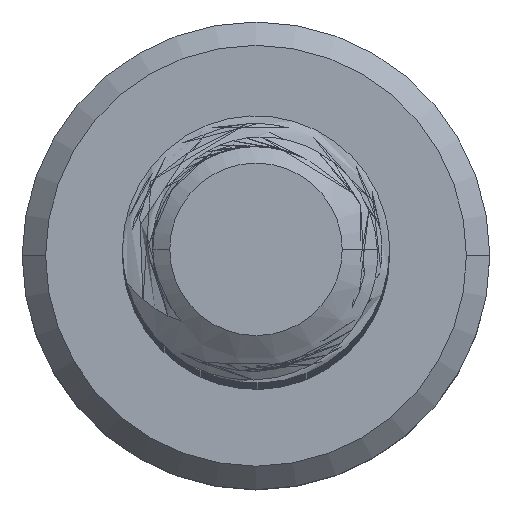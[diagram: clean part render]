
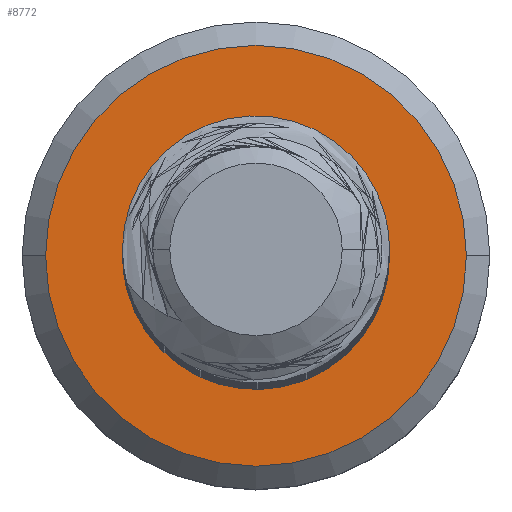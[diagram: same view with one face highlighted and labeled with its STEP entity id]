
A CAD part, top view. The second image highlights one B-rep face of the part: STEP entity #8772.
In plain terms, the highlighted planar face has unit normal (0, 0, 1).
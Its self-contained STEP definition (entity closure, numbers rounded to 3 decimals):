
#97 = CARTESIAN_POINT ( 'NONE',  ( 0., 0., -55. ) ) ;
#228 = CARTESIAN_POINT ( 'NONE',  ( -1.155, 1.168, -55. ) ) ;
#529 = ORIENTED_EDGE ( 'NONE', *, *, #13416, .T. ) ;
#675 = ORIENTED_EDGE ( 'NONE', *, *, #9850, .T. ) ;
#776 = VERTEX_POINT ( 'NONE', #4766 ) ;
#806 = ORIENTED_EDGE ( 'NONE', *, *, #13909, .F. ) ;
#826 = CARTESIAN_POINT ( 'NONE',  ( -1.023, -1.707, -55. ) ) ;
#1130 = CARTESIAN_POINT ( 'NONE',  ( 0.675, 1.39, -55. ) ) ;
#1628 = EDGE_CURVE ( 'NONE', #15917, #8693, #12382, .T. ) ;
#1728 = CARTESIAN_POINT ( 'NONE',  ( 0.675, -1.883, -55. ) ) ;
#2363 = CARTESIAN_POINT ( 'NONE',  ( -1.499, -1.199, -55. ) ) ;
#2501 = CIRCLE ( 'NONE', #16587, 3.15 ) ;
#2617 = AXIS2_PLACEMENT_3D ( 'NONE', #2716, #7029, #17628 ) ;
#2673 = CARTESIAN_POINT ( 'NONE',  ( 0.842, 1.334, -55. ) ) ;
#2716 = CARTESIAN_POINT ( 'NONE',  ( 0., 0., -55. ) ) ;
#2835 = CIRCLE ( 'NONE', #18331, 2. ) ;
#2963 = CARTESIAN_POINT ( 'NONE',  ( 1.634, -0.906, -55. ) ) ;
#3047 = CIRCLE ( 'NONE', #3868, 1.545 ) ;
#3275 = CARTESIAN_POINT ( 'NONE',  ( -1.803, -0.209, -55. ) ) ;
#3458 = CARTESIAN_POINT ( 'NONE',  ( 0., 0., -55. ) ) ;
#3634 = PLANE ( 'NONE',  #11048 ) ;
#3868 = AXIS2_PLACEMENT_3D ( 'NONE', #3458, #15627, #18057 ) ;
#4194 = CARTESIAN_POINT ( 'NONE',  ( -1.663, -0.892, -55. ) ) ;
#4766 = CARTESIAN_POINT ( 'NONE',  ( 0.675, -1.883, -55. ) ) ;
#4790 = CARTESIAN_POINT ( 'NONE',  ( 1.273, 1.037, -55. ) ) ;
#5090 = VERTEX_POINT ( 'NONE', #18135 ) ;
#5135 = FACE_OUTER_BOUND ( 'NONE', #15132, .T. ) ;
#5417 = CARTESIAN_POINT ( 'NONE',  ( 1.77, -0.402, -55. ) ) ;
#5736 = CARTESIAN_POINT ( 'NONE',  ( -1.286, 1.054, -55. ) ) ;
#5761 = FACE_BOUND ( 'NONE', #9760, .T. ) ;
#6015 = CIRCLE ( 'NONE', #2617, 3.15 ) ;
#6077 = DIRECTION ( 'NONE',  ( -1., 0., 0. ) ) ;
#6701 = CARTESIAN_POINT ( 'NONE',  ( -3.15, 0., -55. ) ) ;
#6976 = CARTESIAN_POINT ( 'NONE',  ( 1.679, 0.468, -55. ) ) ;
#7029 = DIRECTION ( 'NONE',  ( 0., 0., 1. ) ) ;
#7622 = DIRECTION ( 'NONE',  ( 0., 0., -1. ) ) ;
#7884 = CARTESIAN_POINT ( 'NONE',  ( -1.597, 0.632, -55. ) ) ;
#7887 = CARTESIAN_POINT ( 'NONE',  ( 0.981, -1.711, -55. ) ) ;
#8185 = CARTESIAN_POINT ( 'NONE',  ( -0.856, 1.351, -55. ) ) ;
#8192 = ORIENTED_EDGE ( 'NONE', *, *, #17785, .T. ) ;
#8206 = DIRECTION ( 'NONE',  ( 0., 0., 1. ) ) ;
#8693 = VERTEX_POINT ( 'NONE', #14682 ) ;
#8772 = ADVANCED_FACE ( 'NONE', ( #5135, #5761 ), #3634, .F. ) ;
#9407 = VERTEX_POINT ( 'NONE', #6701 ) ;
#9760 = EDGE_LOOP ( 'NONE', ( #806, #14263, #675, #11968 ) ) ;
#9793 = VERTEX_POINT ( 'NONE', #16823 ) ;
#9850 = EDGE_CURVE ( 'NONE', #8693, #9793, #3047, .T. ) ;
#9968 = CARTESIAN_POINT ( 'NONE',  ( 1.779, 0.122, -55. ) ) ;
#9982 = CARTESIAN_POINT ( 'NONE',  ( -0.693, 1.417, -55. ) ) ;
#9984 = CARTESIAN_POINT ( 'NONE',  ( 1.243, -1.485, -55. ) ) ;
#10297 = CARTESIAN_POINT ( 'NONE',  ( -0.521, 1.455, -55. ) ) ;
#10797 = DIRECTION ( 'NONE',  ( 0., 0., 1. ) ) ;
#11048 = AXIS2_PLACEMENT_3D ( 'NONE', #14300, #7622, #17294 ) ;
#11208 = CARTESIAN_POINT ( 'NONE',  ( -1.793, -0.386, -55. ) ) ;
#11210 = CARTESIAN_POINT ( 'NONE',  ( 1.389, 0.908, -55. ) ) ;
#11823 = CARTESIAN_POINT ( 'NONE',  ( -0.874, -1.799, -55. ) ) ;
#11860 = CARTESIAN_POINT ( 'NONE',  ( 0., 0., -55. ) ) ;
#11960 = EDGE_CURVE ( 'NONE', #9793, #776, #15326, .T. ) ;
#11968 = ORIENTED_EDGE ( 'NONE', *, *, #11960, .T. ) ;
#12382 = B_SPLINE_CURVE_WITH_KNOTS ( 'NONE', 3,
 ( #11823, #826, #18497, #15753, #2363, #4194, #14255, #11208, #3275, #16372, #13962, #7884, #16052, #5736, #228, #8185, #9982, #10297 ),
 .UNSPECIFIED., .F., .F.,
 ( 4, 2, 2, 2, 2, 2, 2, 2, 4 ),
 ( 0., 0.001, 0.001, 0.002, 0.002, 0.003, 0.003, 0.004, 0.004 ),
 .UNSPECIFIED. ) ;
#13029 = CARTESIAN_POINT ( 'NONE',  ( 0.833, -1.807, -55. ) ) ;
#13416 = EDGE_CURVE ( 'NONE', #5090, #9407, #6015, .T. ) ;
#13651 = CARTESIAN_POINT ( 'NONE',  ( 1.555, -1.064, -55. ) ) ;
#13909 = EDGE_CURVE ( 'NONE', #15917, #776, #2835, .T. ) ;
#13962 = CARTESIAN_POINT ( 'NONE',  ( -1.729, 0.309, -55. ) ) ;
#14255 = CARTESIAN_POINT ( 'NONE',  ( -1.724, -0.725, -55. ) ) ;
#14263 = ORIENTED_EDGE ( 'NONE', *, *, #1628, .T. ) ;
#14300 = CARTESIAN_POINT ( 'NONE',  ( 0., 0., -55. ) ) ;
#14556 = CARTESIAN_POINT ( 'NONE',  ( 0.995, 1.252, -55. ) ) ;
#14682 = CARTESIAN_POINT ( 'NONE',  ( -0.521, 1.455, -55. ) ) ;
#15132 = EDGE_LOOP ( 'NONE', ( #8192, #529 ) ) ;
#15326 = B_SPLINE_CURVE_WITH_KNOTS ( 'NONE', 3,
 ( #1130, #2673, #14556, #4790, #11210, #6976, #9968, #5417, #16054, #2963, #13651, #17572, #9984, #7887, #13029, #1728 ),
 .UNSPECIFIED., .F., .F.,
 ( 4, 2, 2, 2, 2, 2, 2, 4 ),
 ( 0., 0.001, 0.001, 0.002, 0.003, 0.003, 0.004, 0.004 ),
 .UNSPECIFIED. ) ;
#15627 = DIRECTION ( 'NONE',  ( 0., 0., -1. ) ) ;
#15635 = DIRECTION ( 'NONE',  ( 1., 0., 0. ) ) ;
#15753 = CARTESIAN_POINT ( 'NONE',  ( -1.397, -1.341, -55. ) ) ;
#15917 = VERTEX_POINT ( 'NONE', #17303 ) ;
#16052 = CARTESIAN_POINT ( 'NONE',  ( -1.509, 0.783, -55. ) ) ;
#16054 = CARTESIAN_POINT ( 'NONE',  ( 1.741, -0.575, -55. ) ) ;
#16372 = CARTESIAN_POINT ( 'NONE',  ( -1.771, 0.138, -55. ) ) ;
#16587 = AXIS2_PLACEMENT_3D ( 'NONE', #11860, #8206, #6077 ) ;
#16823 = CARTESIAN_POINT ( 'NONE',  ( 0.675, 1.39, -55. ) ) ;
#17294 = DIRECTION ( 'NONE',  ( -1., 0., 0. ) ) ;
#17303 = CARTESIAN_POINT ( 'NONE',  ( -0.874, -1.799, -55. ) ) ;
#17572 = CARTESIAN_POINT ( 'NONE',  ( 1.361, -1.352, -55. ) ) ;
#17628 = DIRECTION ( 'NONE',  ( -1., 0., 0. ) ) ;
#17785 = EDGE_CURVE ( 'NONE', #9407, #5090, #2501, .T. ) ;
#18057 = DIRECTION ( 'NONE',  ( 1., 0., 0. ) ) ;
#18135 = CARTESIAN_POINT ( 'NONE',  ( 3.15, 0., -55. ) ) ;
#18331 = AXIS2_PLACEMENT_3D ( 'NONE', #97, #10797, #15635 ) ;
#18497 = CARTESIAN_POINT ( 'NONE',  ( -1.158, -1.597, -55. ) ) ;
